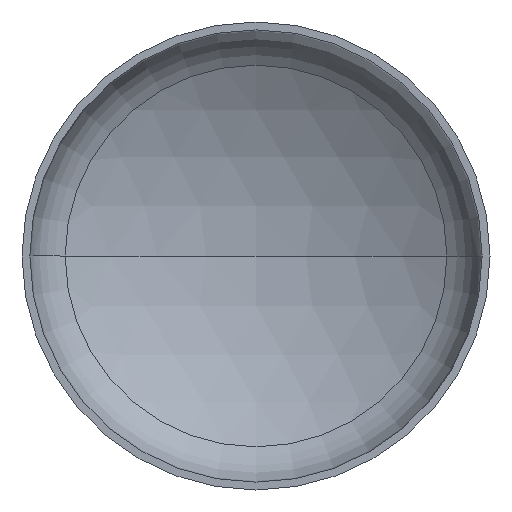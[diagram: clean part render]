
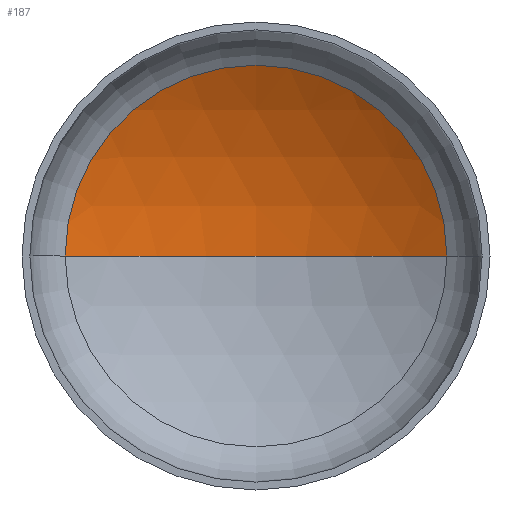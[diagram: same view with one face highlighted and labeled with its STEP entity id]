
A CAD part, front view. The second image highlights one B-rep face of the part: STEP entity #187.
In plain terms, the highlighted spherical face has radius 4000 mm.
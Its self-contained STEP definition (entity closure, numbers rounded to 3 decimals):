
#13 = CARTESIAN_POINT ( 'NONE',  ( 2038.39, 762.518, 0. ) ) ;
#14 = EDGE_LOOP ( 'NONE', ( #53, #48, #269 ) ) ;
#21 = DIRECTION ( 'NONE',  ( 1., 0., 0. ) ) ;
#29 = DIRECTION ( 'NONE',  ( 0., 0., 1. ) ) ;
#30 = AXIS2_PLACEMENT_3D ( 'NONE', #292, #220, #290 ) ;
#39 = VERTEX_POINT ( 'NONE', #295 ) ;
#43 = CIRCLE ( 'NONE', #52, 2038.39 ) ;
#46 = AXIS2_PLACEMENT_3D ( 'NONE', #151, #29, #21 ) ;
#48 = ORIENTED_EDGE ( 'NONE', *, *, #108, .T. ) ;
#49 = AXIS2_PLACEMENT_3D ( 'NONE', #208, #88, #298 ) ;
#52 = AXIS2_PLACEMENT_3D ( 'NONE', #226, #224, #225 ) ;
#53 = ORIENTED_EDGE ( 'NONE', *, *, #111, .F. ) ;
#88 = DIRECTION ( 'NONE',  ( 0., 0., -1. ) ) ;
#106 = EDGE_CURVE ( 'NONE', #127, #153, #43, .T. ) ;
#108 = EDGE_CURVE ( 'NONE', #39, #127, #305, .T. ) ;
#111 = EDGE_CURVE ( 'NONE', #39, #153, #239, .T. ) ;
#127 = VERTEX_POINT ( 'NONE', #13 ) ;
#151 = CARTESIAN_POINT ( 'NONE',  ( 0., -2679.134, 0. ) ) ;
#153 = VERTEX_POINT ( 'NONE', #199 ) ;
#172 = FACE_OUTER_BOUND ( 'NONE', #14, .T. ) ;
#187 = ADVANCED_FACE ( 'NONE', ( #172 ), #354, .F. ) ;
#199 = CARTESIAN_POINT ( 'NONE',  ( -2038.39, 762.518, 0. ) ) ;
#208 = CARTESIAN_POINT ( 'NONE',  ( 0., -2679.134, 0. ) ) ;
#220 = DIRECTION ( 'NONE',  ( 0., 0., -1. ) ) ;
#224 = DIRECTION ( 'NONE',  ( 0., -1., 0. ) ) ;
#225 = DIRECTION ( 'NONE',  ( 1., 0., 0. ) ) ;
#226 = CARTESIAN_POINT ( 'NONE',  ( 0., 762.518, 0. ) ) ;
#239 = CIRCLE ( 'NONE', #46, 4000. ) ;
#269 = ORIENTED_EDGE ( 'NONE', *, *, #106, .T. ) ;
#290 = DIRECTION ( 'NONE',  ( -1., 0., 0. ) ) ;
#292 = CARTESIAN_POINT ( 'NONE',  ( 0., -2679.134, 0. ) ) ;
#295 = CARTESIAN_POINT ( 'NONE',  ( 0., 1320.866, 0. ) ) ;
#298 = DIRECTION ( 'NONE',  ( -1., 0., 0. ) ) ;
#305 = CIRCLE ( 'NONE', #49, 4000. ) ;
#354 = SPHERICAL_SURFACE ( 'NONE', #30, 4000. ) ;
